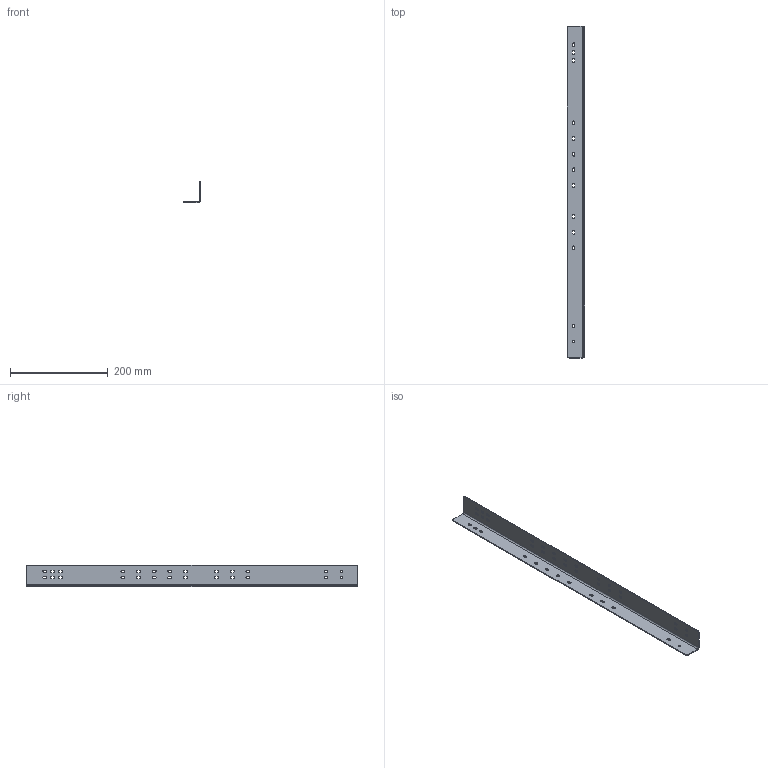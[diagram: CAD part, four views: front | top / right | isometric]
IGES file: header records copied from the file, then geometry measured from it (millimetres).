
Global section: file name: WI_1305319-680_rechts; native system: Autodesk Inventor 2015; preprocessor: unknown; author: MelKon; date: 20171024.133329; units: millimetre
Bounding box: 35 x 680 x 44.7 mm (x, y, z)
Volume: 100696 mm3; surface area: 105367.3 mm2
Topology: 1 solids, 1 shells, 161 faces, 477 edges, 318 vertices
Faces by surface type: bspline 161
